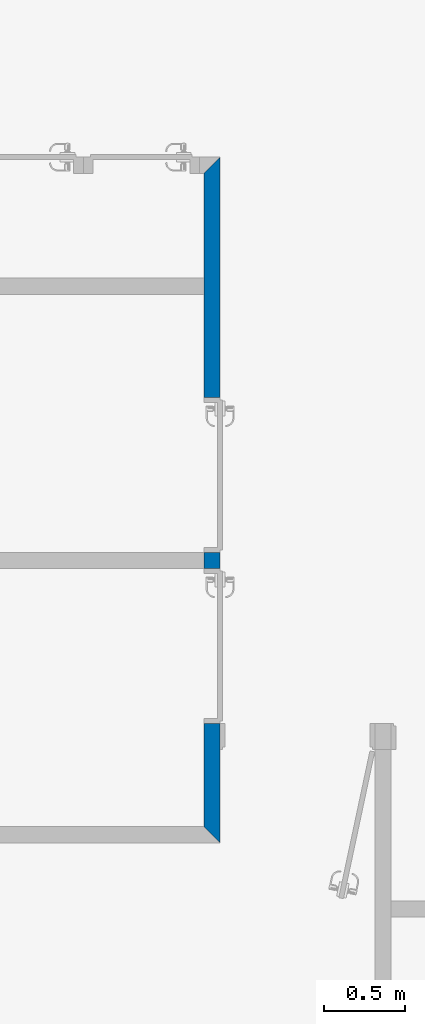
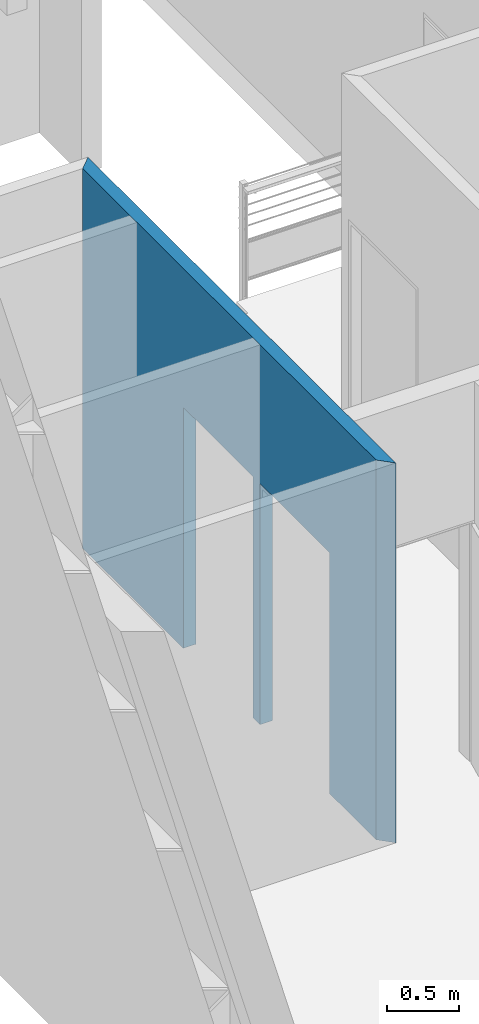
# One storey, part 4 of 14: 1 wall, 2 openings.
"""IFC2X3 building model written with IfcOpenShell, lengths in metres."""

from ifc_helpers import new_model, entity, si_unit, converted_unit, money_unit, direction, frame, origin_with_axes, place, context, subcontext, project, spatial, polyline, outline, extrude, material, layer, layer_set, layer_usage, type_object, element, save


model = new_model("IFC2X3")

# Units and contexts
model_context = context("Model", 3, precision=1e-05, world=origin_with_axes(), true_north=direction((0.0, 1.0)))
body_context = subcontext(model_context, "Body", "Model", "MODEL_VIEW")
ifc_project = project(units=[si_unit("LENGTHUNIT", "METRE"), si_unit("AREAUNIT", "SQUARE_METRE"), si_unit("VOLUMEUNIT", "CUBIC_METRE"), converted_unit("PLANEANGLEUNIT", "DEGREE", entity("IfcPlaneAngleMeasure", 0.0174532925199), si_unit("PLANEANGLEUNIT", "RADIAN"), dimensions=[0, 0, 0, 0, 0, 0, 0]), si_unit("SOLIDANGLEUNIT", "STERADIAN"), money_unit("EUR"), converted_unit("TIMEUNIT", "Year", entity("IfcTimeMeasure", 31556926.0), si_unit("TIMEUNIT", "SECOND"), dimensions=[0, 0, 0, 0, 0, 0, 0]), si_unit("MASSUNIT", "GRAM"), si_unit("THERMODYNAMICTEMPERATUREUNIT", "DEGREE_CELSIUS"), si_unit("LUMINOUSINTENSITYUNIT", "LUMEN")], contexts=[model_context])

# Site, building, storey
site_placement = place(None, origin_with_axes())
site = spatial("IfcSite", under=ifc_project, at=site_placement, Name="Site", CompositionType="ELEMENT")
building_placement = place(site_placement, origin_with_axes())
building = spatial("IfcBuilding", under=site, at=building_placement, Name="Bâtiment", CompositionType="ELEMENT")
storey_placement = place(building_placement, frame((0.0, 0.0, 3.0), z_axis=(0.0, 0.0, 1.0), x_axis=(1.0, 0.0, 0.0)))
storey = spatial("IfcBuildingStorey", under=building, at=storey_placement, Name="NIVEAU HAUT ENTRÉE", CompositionType="ELEMENT", Elevation=3.0)

# Wall, openings
ifc_material = material(Name="Hachure solide* 3962059836")
ifc_layer = layer(ifc_material, 0.1, ventilated="UNKNOWN")
ifc_layer_set = layer_set([ifc_layer], Name="Hachure solide* 3962059836 0.1")
ifc_layer_usage = layer_usage(ifc_layer_set, "AXIS2", "POSITIVE", 0.0)
wall_type = type_object("IfcWallType", Name="Hachure solide* 3962059836 100", PredefinedType="NOTDEFINED")
wall_placement = place(storey_placement, frame((48.1362015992, 9.87881571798, 0.0), z_axis=(0.0, 0.0, 1.0), x_axis=(0.0, 1.0, 0.0)))
wall = element("IfcWallStandardCase", 1, at=wall_placement, inside=storey, type_object=wall_type, material=ifc_layer_usage, Name="Mur-006", context=body_context, shape_type="SweptSolid", body=[
    extrude(outline(polyline([(-0.1, 0.0), (4.15000000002, 0.0), (4.05000000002, 0.1), (0.0, 0.1), (-0.1, 0.0)])), origin_with_axes(), (0.0, 0.0, 1.0), 3.2),
])
opening_1_placement = place(wall_placement, frame((2.18, 0.0, -0.02), z_axis=(0.0, 0.0, 1.0), x_axis=(1.0, 0.0, 0.0)))
element("IfcOpeningElement", 2, at=opening_1_placement, cuts=wall, Name="Por-019", context=body_context, shape_type="SweptSolid", body=[
    extrude(outline(polyline([(-0.48, 0.0), (-0.48, -2.05), (0.48, -2.05), (0.48, 0.0), (-0.48, 0.0)])), frame((0.0, 0.1, 0.0), z_axis=(0.0, -1.0, 0.0), x_axis=(-1.0, 0.0, 0.0)), (0.0, 0.0, 1.0), 0.2),
])
opening_2_placement = place(wall_placement, frame((1.12, 0.0, -0.02), z_axis=(0.0, 0.0, 1.0), x_axis=(1.0, 0.0, 0.0)))
element("IfcOpeningElement", 3, at=opening_2_placement, cuts=wall, Name="Por-021", context=body_context, shape_type="SweptSolid", body=[
    extrude(outline(polyline([(-0.48, 0.0), (-0.48, -2.05), (0.48, -2.05), (0.48, 0.0), (-0.48, 0.0)])), frame((0.0, 0.1, 0.0), z_axis=(0.0, -1.0, 0.0), x_axis=(-1.0, 0.0, 0.0)), (0.0, 0.0, 1.0), 0.2),
])

save(model, "model.ifc")
